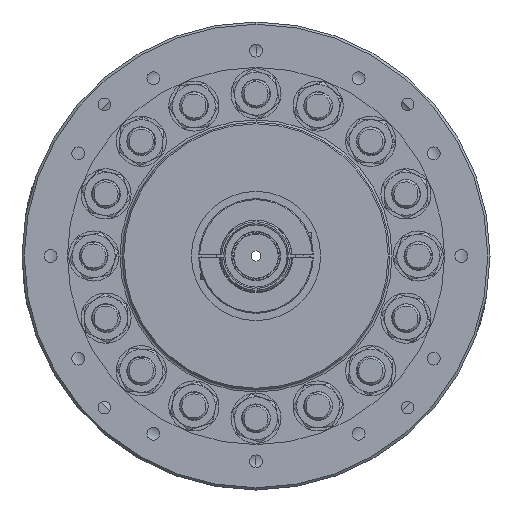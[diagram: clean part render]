
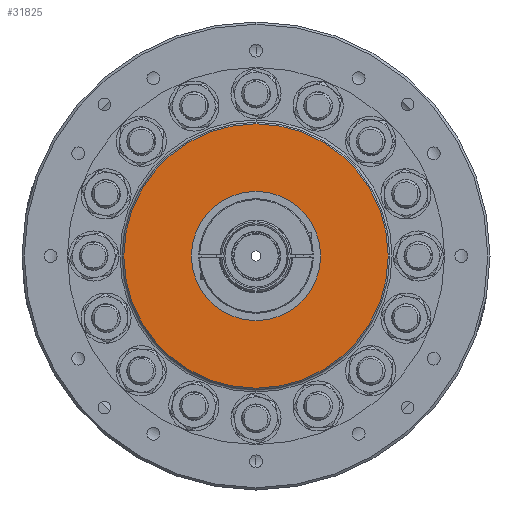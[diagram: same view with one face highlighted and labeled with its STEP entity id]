
A CAD part, left-side view. The second image highlights one B-rep face of the part: STEP entity #31825.
In plain terms, the highlighted planar face has unit normal (-1, 0, 0).
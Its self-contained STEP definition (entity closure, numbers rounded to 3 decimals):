
#3724 = EDGE_LOOP ( 'NONE', ( #27950, #34694 ) ) ;
#4394 = EDGE_CURVE ( 'NONE', #47499, #84177, #6798, .T. ) ;
#6538 = AXIS2_PLACEMENT_3D ( 'NONE', #50319, #16047, #71271 ) ;
#6697 = DIRECTION ( 'NONE',  ( 0., 0., 1. ) ) ;
#6798 = CIRCLE ( 'NONE', #22798, 87.884 ) ;
#9646 = DIRECTION ( 'NONE',  ( -1., 0., 0. ) ) ;
#9934 = CIRCLE ( 'NONE', #39047, 87.884 ) ;
#16047 = DIRECTION ( 'NONE',  ( 1., 0., 0. ) ) ;
#17706 = CARTESIAN_POINT ( 'NONE',  ( 0., 0., 0. ) ) ;
#20143 = CIRCLE ( 'NONE', #88573, 42.926 ) ;
#20192 = FACE_OUTER_BOUND ( 'NONE', #3724, .T. ) ;
#22798 = AXIS2_PLACEMENT_3D ( 'NONE', #60548, #81544, #88358 ) ;
#23560 = CARTESIAN_POINT ( 'NONE',  ( 0., 0., -87.884 ) ) ;
#27950 = ORIENTED_EDGE ( 'NONE', *, *, #34952, .T. ) ;
#31825 = ADVANCED_FACE ( 'NONE', ( #54904, #20192 ), #37498, .F. ) ;
#33233 = VERTEX_POINT ( 'NONE', #39969 ) ;
#34283 = ORIENTED_EDGE ( 'NONE', *, *, #35061, .F. ) ;
#34694 = ORIENTED_EDGE ( 'NONE', *, *, #4394, .T. ) ;
#34952 = EDGE_CURVE ( 'NONE', #84177, #47499, #9934, .T. ) ;
#34960 = DIRECTION ( 'NONE',  ( -1., 0., 0. ) ) ;
#35061 = EDGE_CURVE ( 'NONE', #33233, #85604, #20143, .T. ) ;
#37498 = PLANE ( 'NONE',  #6538 ) ;
#38654 = EDGE_LOOP ( 'NONE', ( #34283, #85222 ) ) ;
#39047 = AXIS2_PLACEMENT_3D ( 'NONE', #17706, #73405, #67407 ) ;
#39969 = CARTESIAN_POINT ( 'NONE',  ( 0., 0., 42.926 ) ) ;
#44432 = AXIS2_PLACEMENT_3D ( 'NONE', #50749, #9646, #72169 ) ;
#47499 = VERTEX_POINT ( 'NONE', #81665 ) ;
#50319 = CARTESIAN_POINT ( 'NONE',  ( 0., 42.926, 0. ) ) ;
#50749 = CARTESIAN_POINT ( 'NONE',  ( 0., 0., 0. ) ) ;
#54904 = FACE_BOUND ( 'NONE', #38654, .T. ) ;
#60548 = CARTESIAN_POINT ( 'NONE',  ( 0., 0., 0. ) ) ;
#66604 = CARTESIAN_POINT ( 'NONE',  ( 0., 0., -42.926 ) ) ;
#67407 = DIRECTION ( 'NONE',  ( 0., 0., 1. ) ) ;
#68317 = CARTESIAN_POINT ( 'NONE',  ( 0., 0., 0. ) ) ;
#70587 = CIRCLE ( 'NONE', #44432, 42.926 ) ;
#71271 = DIRECTION ( 'NONE',  ( 0., 0., -1. ) ) ;
#72169 = DIRECTION ( 'NONE',  ( 0., 0., 1. ) ) ;
#73405 = DIRECTION ( 'NONE',  ( -1., 0., 0. ) ) ;
#77052 = EDGE_CURVE ( 'NONE', #85604, #33233, #70587, .T. ) ;
#81544 = DIRECTION ( 'NONE',  ( -1., 0., 0. ) ) ;
#81665 = CARTESIAN_POINT ( 'NONE',  ( 0., 0., 87.884 ) ) ;
#84177 = VERTEX_POINT ( 'NONE', #23560 ) ;
#85222 = ORIENTED_EDGE ( 'NONE', *, *, #77052, .F. ) ;
#85604 = VERTEX_POINT ( 'NONE', #66604 ) ;
#88358 = DIRECTION ( 'NONE',  ( 0., 0., 1. ) ) ;
#88573 = AXIS2_PLACEMENT_3D ( 'NONE', #68317, #34960, #6697 ) ;
